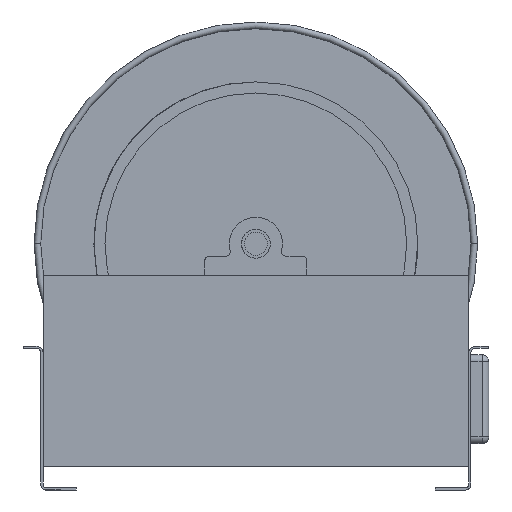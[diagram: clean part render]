
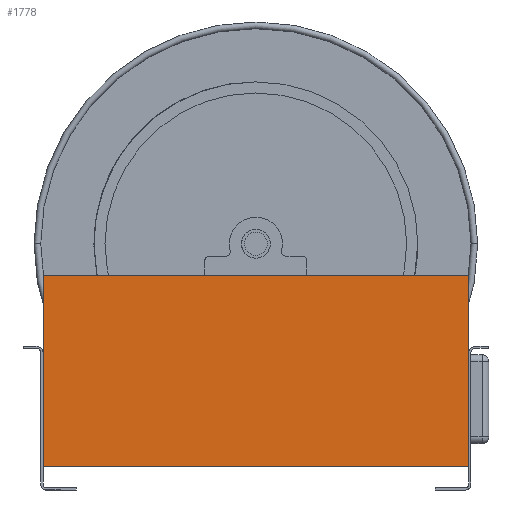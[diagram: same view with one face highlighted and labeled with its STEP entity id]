
A CAD part, front view. The second image highlights one B-rep face of the part: STEP entity #1778.
In plain terms, the highlighted planar face has unit normal (0, -1, 0).
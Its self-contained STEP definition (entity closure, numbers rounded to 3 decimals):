
#62=DIRECTION('',(1.,0.,0.));
#63=VECTOR('',#62,609.295);
#64=CARTESIAN_POINT('',(3.15,-224.612,307.213));
#65=LINE('',#64,#63);
#555=DIRECTION('',(0.,0.,1.));
#556=VECTOR('',#555,272.898);
#557=CARTESIAN_POINT('',(3.15,-224.612,34.315));
#558=LINE('',#557,#556);
#571=DIRECTION('',(0.,0.,1.));
#572=VECTOR('',#571,272.898);
#573=CARTESIAN_POINT('',(612.445,-224.612,34.315));
#574=LINE('',#573,#572);
#575=DIRECTION('',(1.,0.,0.));
#576=VECTOR('',#575,609.295);
#577=CARTESIAN_POINT('',(3.15,-224.612,34.315));
#578=LINE('',#577,#576);
#787=CARTESIAN_POINT('',(612.445,-224.612,34.315));
#788=CARTESIAN_POINT('',(612.445,-224.612,307.213));
#789=VERTEX_POINT('',#787);
#790=VERTEX_POINT('',#788);
#796=CARTESIAN_POINT('',(3.15,-224.612,34.315));
#798=VERTEX_POINT('',#796);
#845=CARTESIAN_POINT('',(3.15,-224.612,307.213));
#846=VERTEX_POINT('',#845);
#1765=CARTESIAN_POINT('',(612.445,-224.612,307.213));
#1766=DIRECTION('',(0.,1.,0.));
#1767=DIRECTION('',(0.,0.,1.));
#1768=AXIS2_PLACEMENT_3D('',#1765,#1766,#1767);
#1769=PLANE('',#1768);
#1770=ORIENTED_EDGE('',*,*,#1756,.T.);
#1771=ORIENTED_EDGE('',*,*,#1066,.T.);
#1773=ORIENTED_EDGE('',*,*,#1772,.F.);
#1775=ORIENTED_EDGE('',*,*,#1774,.F.);
#1776=EDGE_LOOP('',(#1770,#1771,#1773,#1775));
#1777=FACE_OUTER_BOUND('',#1776,.F.);
#1778=ADVANCED_FACE('',(#1777),#1769,.F.);
#1066=EDGE_CURVE('',#846,#790,#65,.T.);
#1756=EDGE_CURVE('',#798,#846,#558,.T.);
#1772=EDGE_CURVE('',#789,#790,#574,.T.);
#1774=EDGE_CURVE('',#798,#789,#578,.T.);
